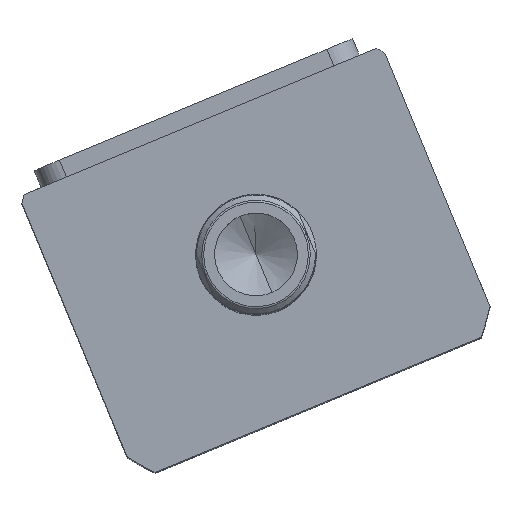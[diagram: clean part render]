
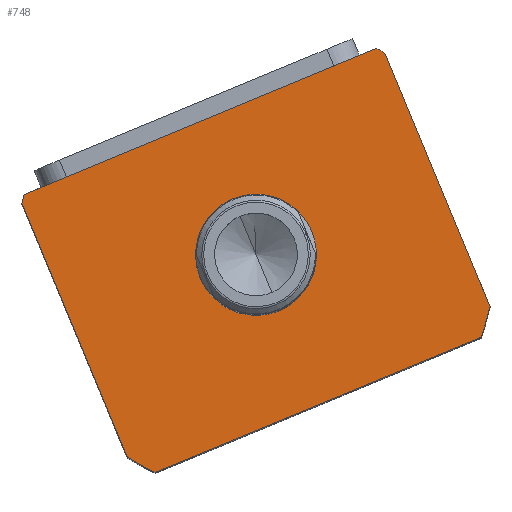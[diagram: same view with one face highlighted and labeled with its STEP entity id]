
A CAD part, top view. The second image highlights one B-rep face of the part: STEP entity #748.
In plain terms, the highlighted planar face has unit normal (0, 0, 1) as drawn and (0, 0, -1) by its records, which use the part's own axes.
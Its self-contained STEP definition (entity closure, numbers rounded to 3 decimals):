
#493 = ORIENTED_EDGE ( 'NONE', *, *, #13048, .T. ) ;
#577 = VERTEX_POINT ( 'NONE', #11686 ) ;
#727 = CARTESIAN_POINT ( 'NONE',  ( 57., 44.5, 0. ) ) ;
#748 = ADVANCED_FACE ( 'NONE', ( #18528, #11293 ), #8865, .F. ) ;
#782 = AXIS2_PLACEMENT_3D ( 'NONE', #16782, #8118, #18213 ) ;
#813 = EDGE_CURVE ( 'NONE', #577, #2577, #18960, .T. ) ;
#980 = CARTESIAN_POINT ( 'NONE',  ( -57., 42.265, 0. ) ) ;
#1257 = CARTESIAN_POINT ( 'NONE',  ( 51.198, -44.5, 0. ) ) ;
#1282 = VECTOR ( 'NONE', #15461, 1000. ) ;
#1456 = VERTEX_POINT ( 'NONE', #980 ) ;
#1928 = ORIENTED_EDGE ( 'NONE', *, *, #18481, .F. ) ;
#2051 = AXIS2_PLACEMENT_3D ( 'NONE', #11630, #2834, #13107 ) ;
#2390 = ORIENTED_EDGE ( 'NONE', *, *, #10022, .F. ) ;
#2570 = CARTESIAN_POINT ( 'NONE',  ( 0., 2.5, 0. ) ) ;
#2577 = VERTEX_POINT ( 'NONE', #1257 ) ;
#2834 = DIRECTION ( 'NONE',  ( 0., 0., 1. ) ) ;
#2943 = EDGE_CURVE ( 'NONE', #6650, #10900, #13529, .T. ) ;
#3601 = CIRCLE ( 'NONE', #782, 69.5 ) ;
#3851 = EDGE_CURVE ( 'NONE', #16141, #18898, #4130, .T. ) ;
#4058 = DIRECTION ( 'NONE',  ( 1., 0., 0. ) ) ;
#4130 = CIRCLE ( 'NONE', #5204, 17.5 ) ;
#4184 = CARTESIAN_POINT ( 'NONE',  ( -57., 44.5, 0. ) ) ;
#4263 = CARTESIAN_POINT ( 'NONE',  ( 0., 2.5, 0. ) ) ;
#4268 = ORIENTED_EDGE ( 'NONE', *, *, #6922, .F. ) ;
#4390 = DIRECTION ( 'NONE',  ( 0., 0., 1. ) ) ;
#4434 = EDGE_CURVE ( 'NONE', #10163, #6650, #11480, .T. ) ;
#4453 = AXIS2_PLACEMENT_3D ( 'NONE', #2570, #12853, #4058 ) ;
#5204 = AXIS2_PLACEMENT_3D ( 'NONE', #4263, #14505, #5754 ) ;
#5259 = CARTESIAN_POINT ( 'NONE',  ( -57., 44.5, 0. ) ) ;
#5417 = ORIENTED_EDGE ( 'NONE', *, *, #4434, .F. ) ;
#5598 = CARTESIAN_POINT ( 'NONE',  ( -17.5, 2.5, 0. ) ) ;
#5654 = ORIENTED_EDGE ( 'NONE', *, *, #2943, .F. ) ;
#5661 = DIRECTION ( 'NONE',  ( -1., 0., 0. ) ) ;
#5754 = DIRECTION ( 'NONE',  ( 1., 0., 0. ) ) ;
#6210 = CARTESIAN_POINT ( 'NONE',  ( -57., -44.5, 0. ) ) ;
#6650 = VERTEX_POINT ( 'NONE', #13329 ) ;
#6922 = EDGE_CURVE ( 'NONE', #1456, #11142, #12572, .T. ) ;
#7369 = CARTESIAN_POINT ( 'NONE',  ( 57., 42.265, 0. ) ) ;
#7456 = DIRECTION ( 'NONE',  ( 1., 0., 0. ) ) ;
#7510 = DIRECTION ( 'NONE',  ( 0., 0., 1. ) ) ;
#8118 = DIRECTION ( 'NONE',  ( 0., 0., 1. ) ) ;
#8167 = EDGE_CURVE ( 'NONE', #10900, #1456, #3601, .T. ) ;
#8494 = CARTESIAN_POINT ( 'NONE',  ( 0., 2.5, 0. ) ) ;
#8568 = CIRCLE ( 'NONE', #11787, 17.5 ) ;
#8865 = PLANE ( 'NONE',  #15825 ) ;
#8925 = CARTESIAN_POINT ( 'NONE',  ( 0., 0., 0. ) ) ;
#9050 = DIRECTION ( 'NONE',  ( 1., 0., 0. ) ) ;
#9219 = VECTOR ( 'NONE', #5661, 1000. ) ;
#9610 = CARTESIAN_POINT ( 'NONE',  ( 57., -37.265, 0. ) ) ;
#9948 = DIRECTION ( 'NONE',  ( 1., 0., 0. ) ) ;
#10022 = EDGE_CURVE ( 'NONE', #2577, #14878, #14920, .T. ) ;
#10163 = VERTEX_POINT ( 'NONE', #7369 ) ;
#10246 = ORIENTED_EDGE ( 'NONE', *, *, #813, .F. ) ;
#10375 = VECTOR ( 'NONE', #12592, 1000. ) ;
#10900 = VERTEX_POINT ( 'NONE', #12190 ) ;
#11142 = VERTEX_POINT ( 'NONE', #18313 ) ;
#11158 = ORIENTED_EDGE ( 'NONE', *, *, #17597, .F. ) ;
#11293 = FACE_OUTER_BOUND ( 'NONE', #12790, .T. ) ;
#11480 = CIRCLE ( 'NONE', #4453, 69.5 ) ;
#11630 = CARTESIAN_POINT ( 'NONE',  ( 0., 2.5, 0. ) ) ;
#11686 = CARTESIAN_POINT ( 'NONE',  ( -51.198, -44.5, 0. ) ) ;
#11787 = AXIS2_PLACEMENT_3D ( 'NONE', #8494, #18591, #9948 ) ;
#12190 = CARTESIAN_POINT ( 'NONE',  ( -55.374, 44.5, 0. ) ) ;
#12522 = ORIENTED_EDGE ( 'NONE', *, *, #8167, .F. ) ;
#12559 = AXIS2_PLACEMENT_3D ( 'NONE', #13180, #4390, #14621 ) ;
#12572 = LINE ( 'NONE', #5259, #1282 ) ;
#12592 = DIRECTION ( 'NONE',  ( 0., 1., 0. ) ) ;
#12790 = EDGE_LOOP ( 'NONE', ( #5417, #1928, #2390, #10246, #11158, #4268, #12522, #5654 ) ) ;
#12853 = DIRECTION ( 'NONE',  ( 0., 0., 1. ) ) ;
#13048 = EDGE_CURVE ( 'NONE', #18898, #16141, #8568, .T. ) ;
#13107 = DIRECTION ( 'NONE',  ( 1., 0., 0. ) ) ;
#13180 = CARTESIAN_POINT ( 'NONE',  ( 0., 2.5, 0. ) ) ;
#13329 = CARTESIAN_POINT ( 'NONE',  ( 55.374, 44.5, 0. ) ) ;
#13529 = LINE ( 'NONE', #4184, #9219 ) ;
#14247 = VECTOR ( 'NONE', #9050, 1000. ) ;
#14248 = LINE ( 'NONE', #727, #10375 ) ;
#14505 = DIRECTION ( 'NONE',  ( 0., 0., 1. ) ) ;
#14621 = DIRECTION ( 'NONE',  ( 1., 0., 0. ) ) ;
#14878 = VERTEX_POINT ( 'NONE', #9610 ) ;
#14920 = CIRCLE ( 'NONE', #2051, 69.5 ) ;
#15461 = DIRECTION ( 'NONE',  ( 0., -1., 0. ) ) ;
#15825 = AXIS2_PLACEMENT_3D ( 'NONE', #8925, #7510, #7456 ) ;
#16111 = ORIENTED_EDGE ( 'NONE', *, *, #3851, .T. ) ;
#16141 = VERTEX_POINT ( 'NONE', #5598 ) ;
#16782 = CARTESIAN_POINT ( 'NONE',  ( 0., 2.5, 0. ) ) ;
#17330 = EDGE_LOOP ( 'NONE', ( #493, #16111 ) ) ;
#17496 = CARTESIAN_POINT ( 'NONE',  ( 17.5, 2.5, 0. ) ) ;
#17597 = EDGE_CURVE ( 'NONE', #11142, #577, #18296, .T. ) ;
#18213 = DIRECTION ( 'NONE',  ( 1., 0., 0. ) ) ;
#18296 = CIRCLE ( 'NONE', #12559, 69.5 ) ;
#18313 = CARTESIAN_POINT ( 'NONE',  ( -57., -37.265, 0. ) ) ;
#18481 = EDGE_CURVE ( 'NONE', #14878, #10163, #14248, .T. ) ;
#18528 = FACE_BOUND ( 'NONE', #17330, .T. ) ;
#18591 = DIRECTION ( 'NONE',  ( 0., 0., 1. ) ) ;
#18898 = VERTEX_POINT ( 'NONE', #17496 ) ;
#18960 = LINE ( 'NONE', #6210, #14247 ) ;
